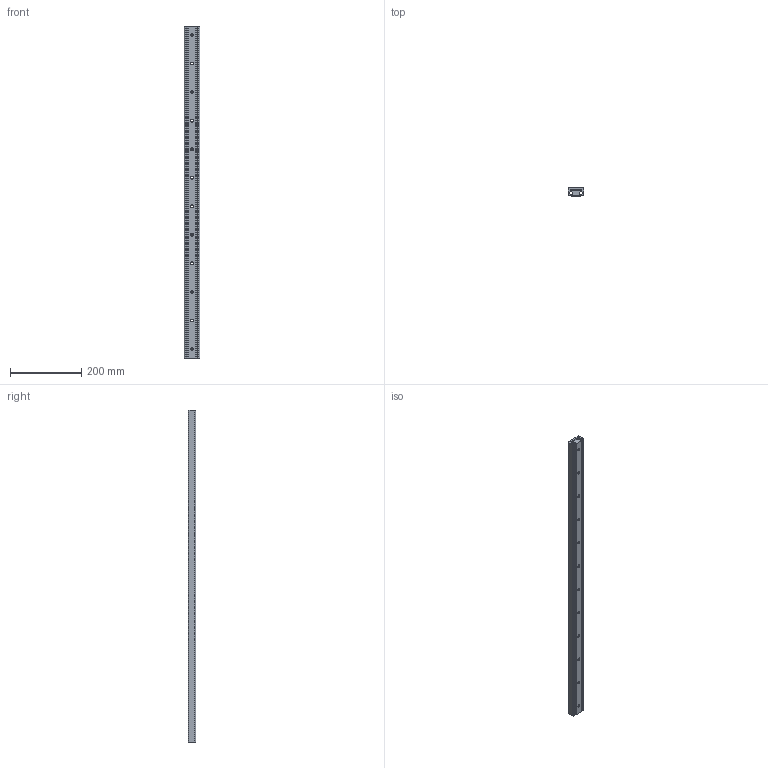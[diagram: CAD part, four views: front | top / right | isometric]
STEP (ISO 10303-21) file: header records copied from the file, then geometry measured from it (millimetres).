
FILE_DESCRIPTION(('STEP AP214'),'1');
FILE_NAME('rail_asn43-930_00.stp','2017-06-06T10:15:48',('TraceParts'),('TraceParts S.A.'),'Spatial InterOp 3D',' ',' ');
FILE_SCHEMA(('automotive_design'));
Length unit declared in the file: millimetre
Products named in the file (2): rail_asn43-930_00_1; rail_asn43-930_00_2
Bounding box: 43 x 22.01 x 930 mm (x, y, z)
Volume: 566108.2 mm3; surface area: 219504.3 mm2
Topology: 2 solids, 2 shells, 197 faces, 492 edges, 304 vertices
Faces by surface type: cylinder 79, cone 72, plane 46
Entity records: 6006 total; most frequent: DIRECTION 1120, CARTESIAN_POINT 995, ORIENTED_EDGE 984, EDGE_CURVE 492, AXIS2_PLACEMENT_3D 429, VERTEX_POINT 304, LINE 262, VECTOR 262
